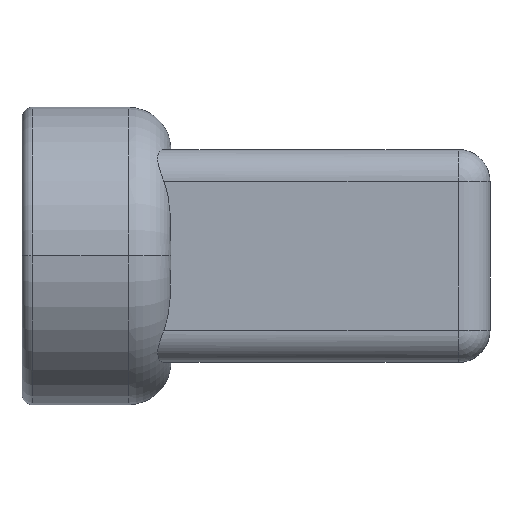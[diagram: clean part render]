
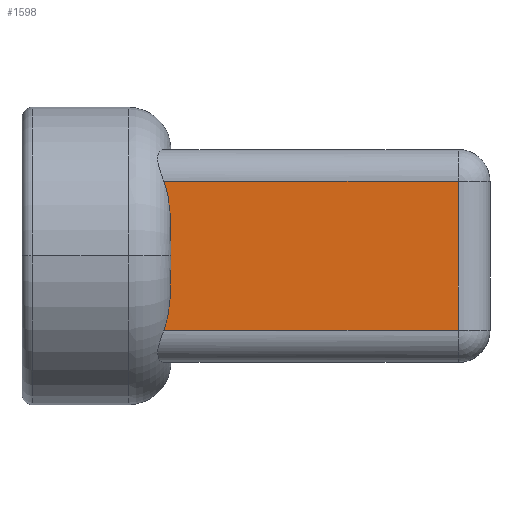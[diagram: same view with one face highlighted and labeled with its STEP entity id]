
A CAD part, top view. The second image highlights one B-rep face of the part: STEP entity #1598.
In plain terms, the highlighted planar face has unit normal (0, 0, 1).
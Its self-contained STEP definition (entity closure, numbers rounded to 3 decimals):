
#291=CARTESIAN_POINT('',(14.,0.,-26.));
#292=CARTESIAN_POINT('',(14.,0.257,-26.));
#293=CARTESIAN_POINT('',(14.,0.77,-26.));
#294=CARTESIAN_POINT('',(13.999,1.538,-26.));
#295=CARTESIAN_POINT('',(13.993,2.3,-26.));
#296=CARTESIAN_POINT('',(13.977,3.05,-26.));
#297=CARTESIAN_POINT('',(13.944,3.784,-26.));
#298=CARTESIAN_POINT('',(13.887,4.496,-26.));
#299=CARTESIAN_POINT('',(13.802,5.179,-26.));
#300=CARTESIAN_POINT('',(13.683,5.833,-26.));
#301=CARTESIAN_POINT('',(13.529,6.448,-26.));
#302=CARTESIAN_POINT('',(13.404,6.821,-26.));
#303=CARTESIAN_POINT('',(13.336,7.,-26.));
#385=DIRECTION('',(-1.,0.,0.));
#386=VECTOR('',#385,27.664);
#387=CARTESIAN_POINT('',(41.,-7.,-26.));
#388=LINE('',#387,#386);
#404=DIRECTION('',(0.,-1.,0.));
#405=VECTOR('',#404,14.);
#406=CARTESIAN_POINT('',(41.,7.,-26.));
#407=LINE('',#406,#405);
#412=CARTESIAN_POINT('',(14.,0.,-26.));
#413=CARTESIAN_POINT('',(14.,-0.258,-26.));
#414=CARTESIAN_POINT('',(14.,-0.771,-26.));
#415=CARTESIAN_POINT('',(13.999,-1.54,-26.));
#416=CARTESIAN_POINT('',(13.993,-2.303,-26.));
#417=CARTESIAN_POINT('',(13.977,-3.054,-26.));
#418=CARTESIAN_POINT('',(13.944,-3.789,-26.));
#419=CARTESIAN_POINT('',(13.887,-4.503,-26.));
#420=CARTESIAN_POINT('',(13.801,-5.186,-26.));
#421=CARTESIAN_POINT('',(13.683,-5.836,-26.));
#422=CARTESIAN_POINT('',(13.529,-6.447,-26.));
#423=CARTESIAN_POINT('',(13.404,-6.821,-26.));
#424=CARTESIAN_POINT('',(13.336,-7.,-26.));
#450=DIRECTION('',(1.,0.,0.));
#451=VECTOR('',#450,27.664);
#452=CARTESIAN_POINT('',(13.336,7.,-26.));
#453=LINE('',#452,#451);
#1150=CARTESIAN_POINT('',(41.,-7.,-26.));
#1151=VERTEX_POINT('',#1150);
#1175=CARTESIAN_POINT('',(41.,7.,-26.));
#1176=VERTEX_POINT('',#1175);
#1177=CARTESIAN_POINT('',(13.336,-7.,
-26.));
#1178=VERTEX_POINT('',#1177);
#1185=VERTEX_POINT('',#412);
#1187=CARTESIAN_POINT('',(13.336,7.,-26.));
#1188=VERTEX_POINT('',#1187);
#1585=CARTESIAN_POINT('',(35.433,-7.28,-26.));
#1586=DIRECTION('',(0.,0.,1.));
#1587=DIRECTION('',(0.,1.,0.));
#1588=AXIS2_PLACEMENT_3D('',#1585,#1586,#1587);
#1589=PLANE('',#1588);
#1590=ORIENTED_EDGE('',*,*,#1517,.F.);
#1591=ORIENTED_EDGE('',*,*,#1495,.T.);
#1593=ORIENTED_EDGE('',*,*,#1592,.T.);
#1594=ORIENTED_EDGE('',*,*,#1575,.T.);
#1595=ORIENTED_EDGE('',*,*,#1552,.T.);
#1596=EDGE_LOOP('',(#1590,#1591,#1593,#1594,#1595));
#1597=FACE_OUTER_BOUND('',#1596,.F.);
#304=B_SPLINE_CURVE_WITH_KNOTS('',3,(#291,#292,#293,#294,#295,#296,#297,#298,
#299,#300,#301,#302,#303),.UNSPECIFIED.,.F.,.F.,(4,1,1,1,1,1,1,1,1,1,4),(0.,
0.1,0.2,0.3,0.4,0.5,0.6,0.7,0.8,0.9,1.),.UNSPECIFIED.);
#425=B_SPLINE_CURVE_WITH_KNOTS('',3,(#412,#413,#414,#415,#416,#417,#418,#419,
#420,#421,#422,#423,#424),.UNSPECIFIED.,.F.,.F.,(4,1,1,1,1,1,1,1,1,1,4),(0.,
0.1,0.2,0.3,0.4,0.5,0.6,0.7,0.8,0.9,1.),.UNSPECIFIED.);
#1495=EDGE_CURVE('',#1185,#1188,#304,.T.);
#1517=EDGE_CURVE('',#1185,#1178,#425,.T.);
#1552=EDGE_CURVE('',#1151,#1178,#388,.T.);
#1575=EDGE_CURVE('',#1176,#1151,#407,.T.);
#1592=EDGE_CURVE('',#1188,#1176,#453,.T.);
#1598=ADVANCED_FACE('',(#1597),#1589,.T.);
